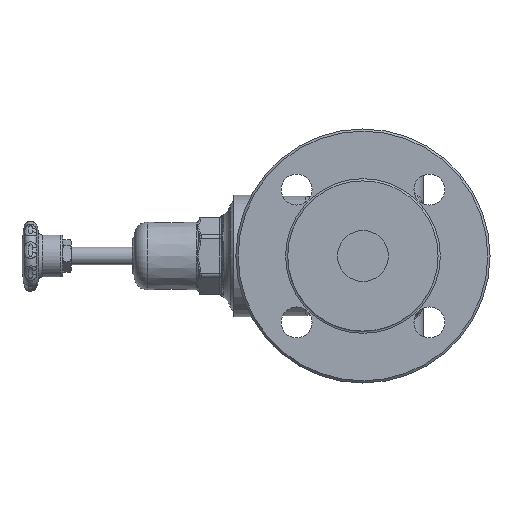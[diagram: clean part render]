
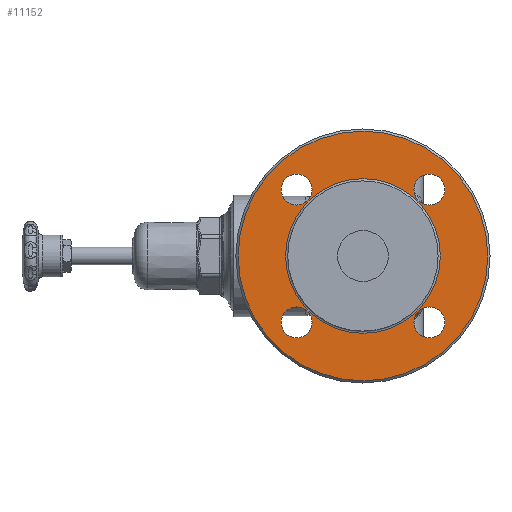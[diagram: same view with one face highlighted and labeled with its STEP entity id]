
A CAD part, left-side view. The second image highlights one B-rep face of the part: STEP entity #11152.
In plain terms, the highlighted planar face has unit normal (-1, 0, 0).
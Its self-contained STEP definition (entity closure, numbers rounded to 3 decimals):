
#1833=FACE_BOUND('',#2772,.T.);
#1834=FACE_BOUND('',#2773,.T.);
#1835=FACE_BOUND('',#2774,.T.);
#1836=FACE_BOUND('',#2775,.T.);
#1837=FACE_BOUND('',#2776,.T.);
#1889=PLANE('',#11901);
#2068=FACE_OUTER_BOUND('',#2771,.T.);
#2771=EDGE_LOOP('',(#7692));
#2772=EDGE_LOOP('',(#7693));
#2773=EDGE_LOOP('',(#7694));
#2774=EDGE_LOOP('',(#7695));
#2775=EDGE_LOOP('',(#7696));
#2776=EDGE_LOOP('',(#7697));
#4331=CIRCLE('',#11880,7.);
#4333=CIRCLE('',#11883,7.);
#4335=CIRCLE('',#11886,7.);
#4337=CIRCLE('',#11889,7.);
#4342=CIRCLE('',#11898,56.5);
#4344=CIRCLE('',#11902,35.);
#4902=VERTEX_POINT('',#15528);
#4904=VERTEX_POINT('',#15534);
#4906=VERTEX_POINT('',#15540);
#4908=VERTEX_POINT('',#15546);
#4915=VERTEX_POINT('',#15600);
#4917=VERTEX_POINT('',#15608);
#5948=EDGE_CURVE('',#4902,#4902,#4331,.T.);
#5951=EDGE_CURVE('',#4904,#4904,#4333,.T.);
#5954=EDGE_CURVE('',#4906,#4906,#4335,.T.);
#5957=EDGE_CURVE('',#4908,#4908,#4337,.T.);
#5966=EDGE_CURVE('',#4915,#4915,#4342,.T.);
#5969=EDGE_CURVE('',#4917,#4917,#4344,.T.);
#7692=ORIENTED_EDGE('',*,*,#5966,.F.);
#7693=ORIENTED_EDGE('',*,*,#5969,.F.);
#7694=ORIENTED_EDGE('',*,*,#5957,.T.);
#7695=ORIENTED_EDGE('',*,*,#5954,.T.);
#7696=ORIENTED_EDGE('',*,*,#5951,.T.);
#7697=ORIENTED_EDGE('',*,*,#5948,.T.);
#11152=ADVANCED_FACE('',(#2068,#1833,#1834,#1835,#1836,#1837),#1889,.T.);
#11880=AXIS2_PLACEMENT_3D('',#15530,#12999,#13000);
#11883=AXIS2_PLACEMENT_3D('',#15536,#13006,#13007);
#11886=AXIS2_PLACEMENT_3D('',#15542,#13013,#13014);
#11889=AXIS2_PLACEMENT_3D('',#15548,#13020,#13021);
#11898=AXIS2_PLACEMENT_3D('',#15602,#13040,#13041);
#11901=AXIS2_PLACEMENT_3D('',#15607,#13047,#13048);
#11902=AXIS2_PLACEMENT_3D('',#15609,#13049,#13050);
#12999=DIRECTION('center_axis',(1.,0.,0.));
#13000=DIRECTION('ref_axis',(0.,0.,
1.));
#13006=DIRECTION('center_axis',(1.,0.,0.));
#13007=DIRECTION('ref_axis',(0.,1.,0.));
#13013=DIRECTION('center_axis',(1.,0.,0.));
#13014=DIRECTION('ref_axis',(0.,-1.,0.));
#13020=DIRECTION('center_axis',(1.,0.,0.));
#13021=DIRECTION('ref_axis',(0.,0.,-1.));
#13040=DIRECTION('center_axis',(1.,0.,0.));
#13041=DIRECTION('ref_axis',(0.,0.,-1.));
#13047=DIRECTION('center_axis',(-1.,0.,0.));
#13048=DIRECTION('ref_axis',(0.,0.,-1.));
#13049=DIRECTION('center_axis',(-1.,0.,0.));
#13050=DIRECTION('ref_axis',(0.,0.,-1.));
#15528=CARTESIAN_POINT('',(-76.5,30.052,-37.052));
#15530=CARTESIAN_POINT('Origin',(-76.5,30.052,-30.052));
#15534=CARTESIAN_POINT('',(-76.5,-37.052,-30.052));
#15536=CARTESIAN_POINT('Origin',(-76.5,-30.052,-30.052));
#15540=CARTESIAN_POINT('',(-76.5,37.052,30.052));
#15542=CARTESIAN_POINT('Origin',(-76.5,30.052,30.052));
#15546=CARTESIAN_POINT('',(-76.5,-30.052,37.052));
#15548=CARTESIAN_POINT('Origin',(-76.5,-30.052,30.052));
#15600=CARTESIAN_POINT('',(-76.5,0.,56.5));
#15602=CARTESIAN_POINT('Origin',(-76.5,0.,0.));
#15607=CARTESIAN_POINT('Origin',(-76.5,0.,0.));
#15608=CARTESIAN_POINT('',(-76.5,0.,35.));
#15609=CARTESIAN_POINT('Origin',(-76.5,0.,0.));
